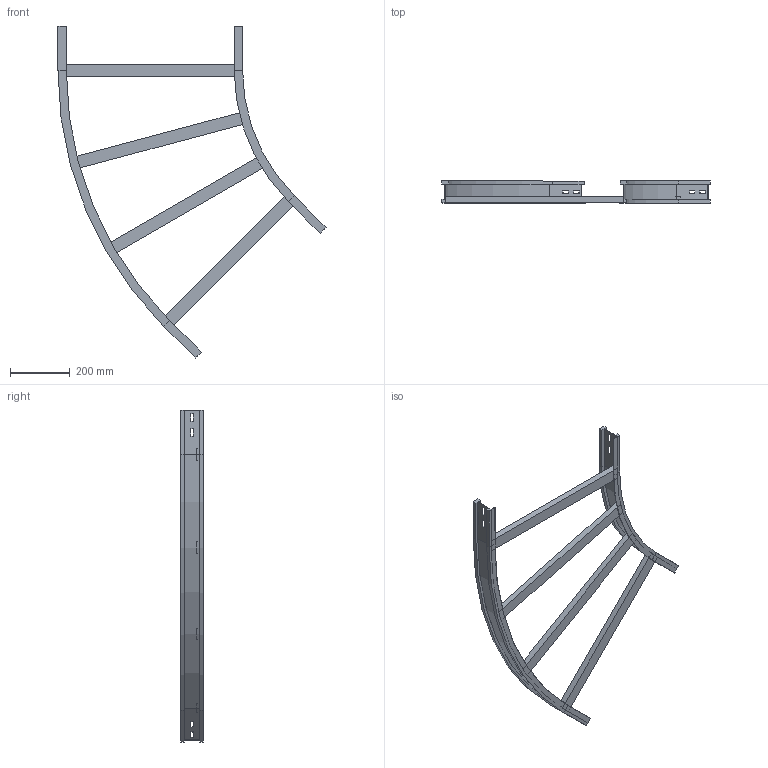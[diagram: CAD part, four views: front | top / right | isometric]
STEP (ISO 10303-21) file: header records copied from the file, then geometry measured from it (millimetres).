
FILE_DESCRIPTION (( 'STEP AP214' ), '1' );
FILE_NAME ('11S6C600.step', '2025-02-21T16:06:22', ( '' ), ( '' ), 'SwSTEP 2.0', 'SolidWorks 2023', '' );
FILE_SCHEMA (( 'AUTOMOTIVE_DESIGN' ));
Length unit declared in the file: millimetre
Products named in the file (4): 11S6C600; LONGH.INTERNO 45°_H75_R600; LONGH.ESTERNO 45°_H75_R600+600; TRAVERSINO_600
Assembly tree (6 placements, depth 2):
  11S6C600
    LONGH.INTERNO 45°_H75_R600
    LONGH.ESTERNO 45°_H75_R600+600
    TRAVERSINO_600  x4
Bounding box: 897.17 x 75 x 1110.96 mm (x, y, z)
Volume: 2923838.9 mm3; surface area: 792003 mm2
Topology: 6 solids, 6 shells, 132 faces, 312 edges, 192 vertices
Faces by surface type: plane 120, cylinder 12
Entity records: 3397 total; most frequent: CARTESIAN_POINT 567, ORIENTED_EDGE 552, DIRECTION 546, EDGE_CURVE 276, LINE 252, VECTOR 252, VERTEX_POINT 168, AXIS2_PLACEMENT_3D 147
